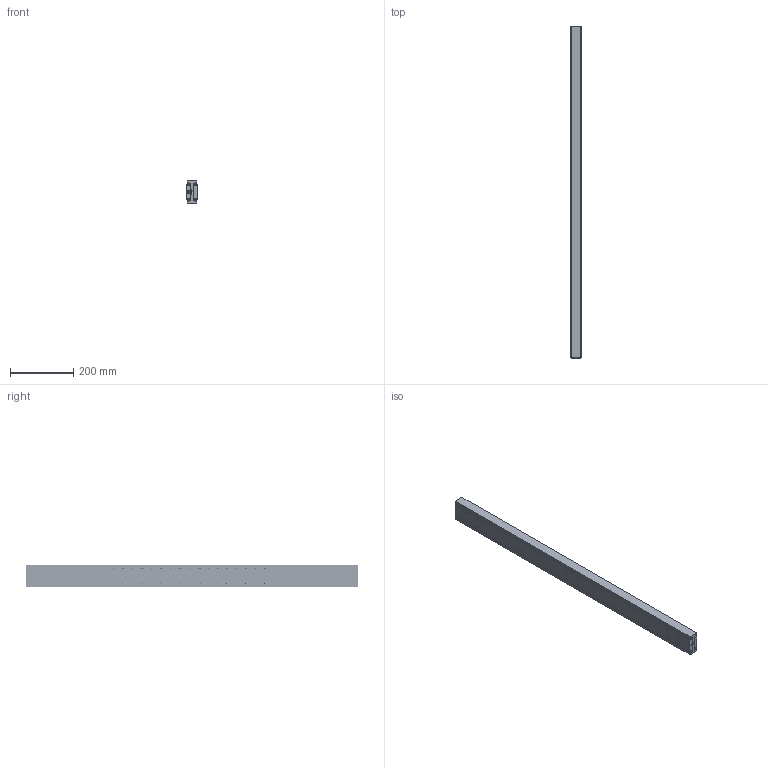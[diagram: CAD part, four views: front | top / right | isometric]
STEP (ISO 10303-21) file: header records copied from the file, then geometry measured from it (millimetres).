
FILE_DESCRIPTION(/* description */ (''),/* implementation_level */ '2;1');
FILE_NAME(/* name */ 'D:\Zeichnungen Schienen Komplett\MX-DTP70\MX-DTP70.105\MX-DTP70.105_eingefahren.step',/* time_stamp */ '2022-08-30T10:06:17+02:00',/* author */ ('zmile'),/* organization */ (''),/* preprocessor_version */ 'ST-DEVELOPER v16.13',/* originating_system */ 'AutoCAD Mechanical',/* authorisation */ '');
FILE_SCHEMA (('AUTOMOTIVE_DESIGN { 1 0 10303 214 3 1 1 }'));
Products named in the file (1): Product
Bounding box: 32 x 1050 x 70 mm (x, y, z)
Volume: 1862836.8 mm3; surface area: 666138.3 mm2
Topology: 75 solids, 75 shells, 354 faces, 1000 edges, 664 vertices
Faces by surface type: cylinder 108, plane 86, bspline 86, sphere 68, torus 6
Full cylindrical faces by diameter (mm): 9 x68, 13 x2
Entity records: 193470 total; most frequent: CARTESIAN_POINT 185340, ORIENTED_EDGE 1572, DIRECTION 1342, EDGE_CURVE 786, VERTEX_POINT 662, EDGE_LOOP 622, AXIS2_PLACEMENT_3D 565, FACE_OUTER_BOUND 354
